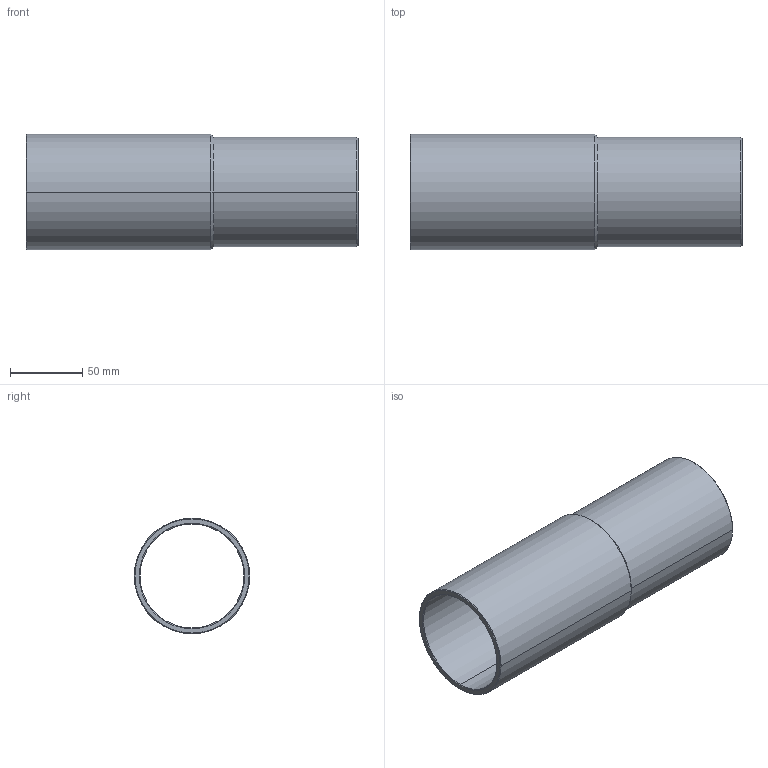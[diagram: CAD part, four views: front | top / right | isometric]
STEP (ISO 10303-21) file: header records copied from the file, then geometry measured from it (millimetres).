
FILE_DESCRIPTION(('CoCreate Modeling STEP Export'),'2;1');
FILE_NAME('C1432 81x76.1.stp','2014-11-12T16:22:22',(''),(''),'CoCreate Modeling STEP processor for AP214 (Solid Model)','CoCreate Modeling 17.00A 17-Jun-2010 (C) Parametric Technology GmbH','');
FILE_SCHEMA(('AUTOMOTIVE_DESIGN { 1 0 10303 214 1 1 1 1 }'));
Length unit declared in the file: millimetre
Products named in the file (1): 620653.0
Bounding box: 230 x 80 x 80 mm (x, y, z)
Volume: 171211.8 mm3; surface area: 109904.3 mm2
Topology: 1 solids, 1 shells, 18 faces, 41 edges, 25 vertices
Faces by surface type: cone 10, cylinder 6, plane 2
Entity records: 425 total; most frequent: ORIENTED_EDGE 82, CARTESIAN_POINT 62, DIRECTION 58, EDGE_CURVE 41, VERTEX_POINT 25, AXIS2_PLACEMENT_3D 21, EDGE_LOOP 20, FACE_OUTER_BOUND 18
